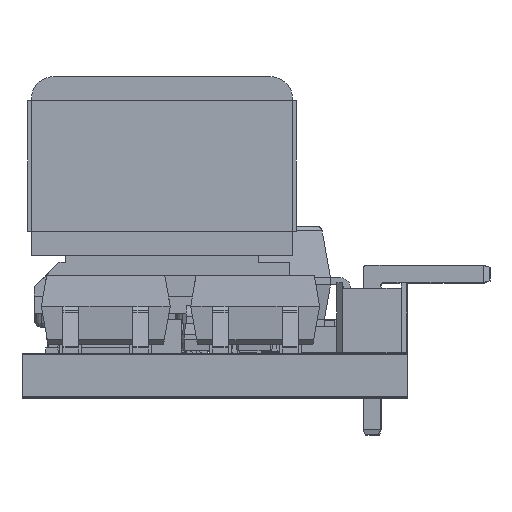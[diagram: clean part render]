
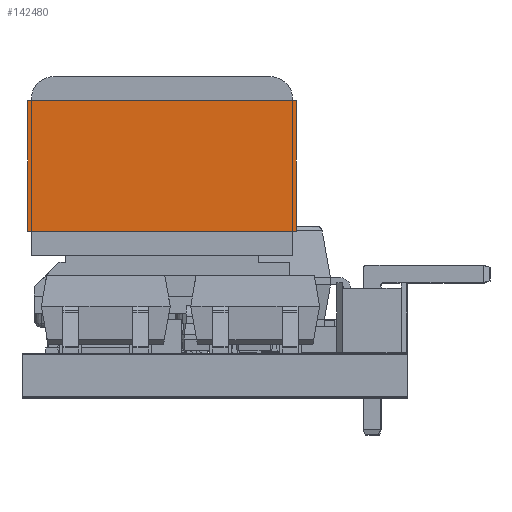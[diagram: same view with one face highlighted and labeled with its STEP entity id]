
A CAD part, left-side view. The second image highlights one B-rep face of the part: STEP entity #142480.
In plain terms, the highlighted face is a extrusion surface.
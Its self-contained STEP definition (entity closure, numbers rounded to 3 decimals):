
#142452 = VERTEX_POINT('',#142453);
#142453 = CARTESIAN_POINT('',(26.039,2.769,
    9.195));
#142459 = EDGE_CURVE('',#142452,#142460,#142462,.T.);
#142460 = VERTEX_POINT('',#142461);
#142461 = CARTESIAN_POINT('',(26.039,2.769,
    4.445));
#142462 = LINE('',#142463,#142464);
#142463 = CARTESIAN_POINT('',(26.039,2.769,
    9.195));
#142464 = VECTOR('',#142465,1.);
#142465 = DIRECTION('',(0.,0.,-1.));
#142480 = ADVANCED_FACE('',(#142481),#142506,.T.);
#142481 = FACE_BOUND('',#142482,.T.);
#142482 = EDGE_LOOP('',(#142483,#142491,#142499,#142505));
#142483 = ORIENTED_EDGE('',*,*,#142484,.T.);
#142484 = EDGE_CURVE('',#142452,#142485,#142487,.T.);
#142485 = VERTEX_POINT('',#142486);
#142486 = CARTESIAN_POINT('',(26.039,12.549,
    9.195));
#142487 = LINE('',#142488,#142489);
#142488 = CARTESIAN_POINT('',(26.039,2.769,
    9.195));
#142489 = VECTOR('',#142490,1.);
#142490 = DIRECTION('',(0.,1.,0.));
#142491 = ORIENTED_EDGE('',*,*,#142492,.T.);
#142492 = EDGE_CURVE('',#142485,#142493,#142495,.T.);
#142493 = VERTEX_POINT('',#142494);
#142494 = CARTESIAN_POINT('',(26.039,12.549,
    4.445));
#142495 = LINE('',#142496,#142497);
#142496 = CARTESIAN_POINT('',(26.039,12.549,
    9.195));
#142497 = VECTOR('',#142498,1.);
#142498 = DIRECTION('',(0.,0.,-1.));
#142499 = ORIENTED_EDGE('',*,*,#142500,.T.);
#142500 = EDGE_CURVE('',#142493,#142460,#142501,.T.);
#142501 = LINE('',#142502,#142503);
#142502 = CARTESIAN_POINT('',(26.039,12.549,
    4.445));
#142503 = VECTOR('',#142504,1.);
#142504 = DIRECTION('',(0.,-1.,0.));
#142505 = ORIENTED_EDGE('',*,*,#142459,.F.);
#142506 = SURFACE_OF_LINEAR_EXTRUSION('',#142507,#142511);
#142507 = LINE('',#142508,#142509);
#142508 = CARTESIAN_POINT('',(26.039,12.549,
    4.445));
#142509 = VECTOR('',#142510,1.);
#142510 = DIRECTION('',(0.,-1.,0.));
#142511 = VECTOR('',#142512,1.);
#142512 = DIRECTION('',(0.,0.,1.));
